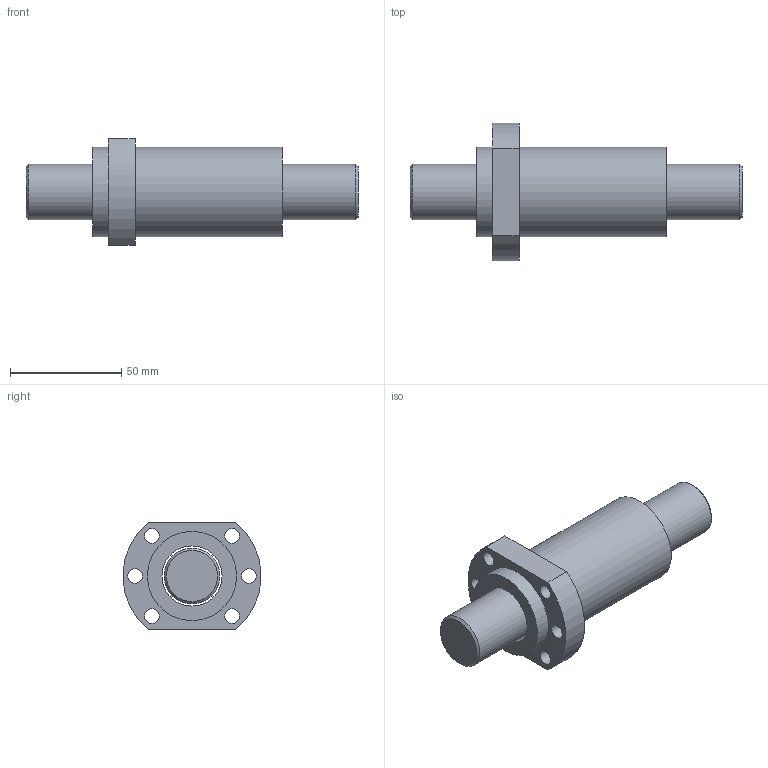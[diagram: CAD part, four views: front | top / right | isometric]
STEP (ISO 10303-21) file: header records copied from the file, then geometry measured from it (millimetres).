
FILE_DESCRIPTION(/* description */ (''),/* implementation_level */ '2;1');
FILE_NAME(/* name */ 'SFA2525-2.8.stp',/* time_stamp */ '2019-04-02T08:38:16+08:00',/* author */ (''),/* organization */ (''),/* preprocessor_version */ 'ST-DEVELOPER v14',/* originating_system */ 'SIEMENS PLM Software NX 8.0',/* authorisation */ '');
FILE_SCHEMA (('AP203_CONFIGURATION_CONTROLLED_3D_DESIGN_OF_MECHANICAL_PARTS_AND_ASSEMBLIES_MIM_LF { 1 0 10303 403 2 1 2}'));
Length unit declared in the file: millimetre
Products named in the file (1): 00251B18CDB0b5g4
Bounding box: 149 x 61.8 x 48 mm (x, y, z)
Volume: 145391.5 mm3; surface area: 36456.8 mm2
Topology: 2 solids, 2 shells, 22 faces, 49 edges, 33 vertices
Faces by surface type: cylinder 12, plane 8, cone 2
Full cylindrical faces by diameter (mm): 6.6 x6, 25 x1, 27 x1, 40 x2
Entity records: 658 total; most frequent: DIRECTION 106, CARTESIAN_POINT 87, ORIENTED_EDGE 68, EDGE_LOOP 50, AXIS2_PLACEMENT_3D 49, FACE_BOUND 44, EDGE_CURVE 34, VERTEX_POINT 30
